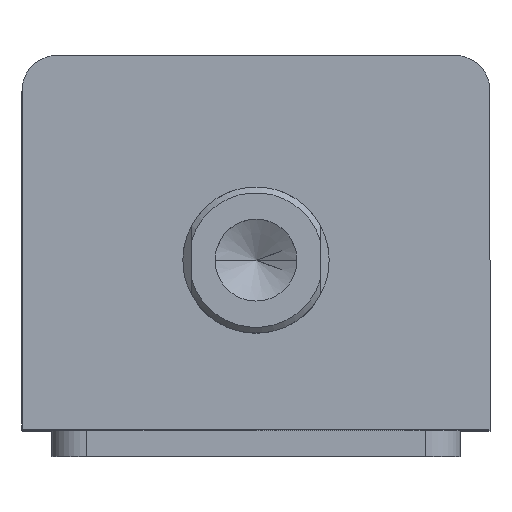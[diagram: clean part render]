
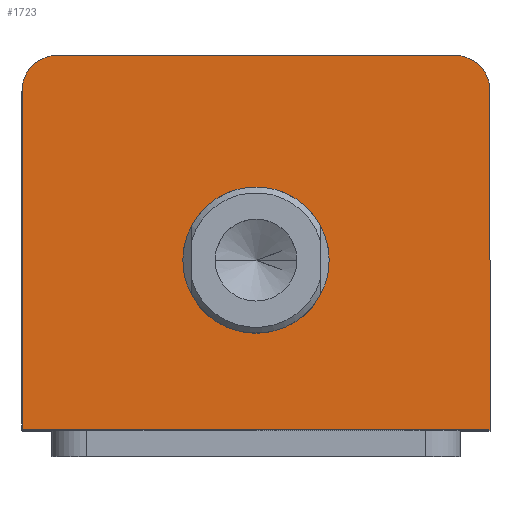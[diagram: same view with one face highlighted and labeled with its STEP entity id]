
A CAD part, top view. The second image highlights one B-rep face of the part: STEP entity #1723.
In plain terms, the highlighted planar face has unit normal (0, 0, 1).
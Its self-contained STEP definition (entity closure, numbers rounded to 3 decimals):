
#81 = CARTESIAN_POINT ( 'NONE',  ( 12.5, -3., 115. ) ) ;
#83 = CARTESIAN_POINT ( 'NONE',  ( -12.5, -3., 115. ) ) ;
#174 = CARTESIAN_POINT ( 'NONE',  ( -34., 32., 115. ) ) ;
#374 = DIRECTION ( 'NONE',  ( -1., 0., 0. ) ) ;
#379 = CARTESIAN_POINT ( 'NONE',  ( -40., 32., 115. ) ) ;
#418 = DIRECTION ( 'NONE',  ( 0., -1., 0. ) ) ;
#420 = CARTESIAN_POINT ( 'NONE',  ( -40., 32., 115. ) ) ;
#430 = DIRECTION ( 'NONE',  ( 1., 0., 0. ) ) ;
#431 = DIRECTION ( 'NONE',  ( 0., 0., 1. ) ) ;
#432 = CARTESIAN_POINT ( 'NONE',  ( -34., 26., 115. ) ) ;
#470 = DIRECTION ( 'NONE',  ( 1., 0., 0. ) ) ;
#471 = DIRECTION ( 'NONE',  ( 0., 0., 1. ) ) ;
#472 = CARTESIAN_POINT ( 'NONE',  ( 34., 26., 115. ) ) ;
#498 = DIRECTION ( 'NONE',  ( 1., 0., 0. ) ) ;
#506 = DIRECTION ( 'NONE',  ( 0., 1., 0. ) ) ;
#507 = CARTESIAN_POINT ( 'NONE',  ( 40., 32., 115. ) ) ;
#517 = CARTESIAN_POINT ( 'NONE',  ( -40., -32., 115. ) ) ;
#561 = ORIENTED_EDGE ( 'NONE', *, *, #1326, .T. ) ;
#562 = ORIENTED_EDGE ( 'NONE', *, *, #1318, .T. ) ;
#563 = ORIENTED_EDGE ( 'NONE', *, *, #1281, .T. ) ;
#851 = CIRCLE ( 'NONE', #1608, 12.5 ) ;
#889 = LINE ( 'NONE', #517, #896 ) ;
#896 = VECTOR ( 'NONE', #498, 1000. ) ;
#921 = LINE ( 'NONE', #379, #924 ) ;
#924 = VECTOR ( 'NONE', #374, 1000. ) ;
#961 = LINE ( 'NONE', #507, #964 ) ;
#964 = VECTOR ( 'NONE', #506, 1000. ) ;
#968 = CIRCLE ( 'NONE', #2745, 6. ) ;
#981 = CIRCLE ( 'NONE', #2738, 6. ) ;
#987 = LINE ( 'NONE', #420, #990 ) ;
#990 = VECTOR ( 'NONE', #418, 1000. ) ;
#1067 = CIRCLE ( 'NONE', #3326, 12.5 ) ;
#1253 = EDGE_CURVE ( 'NONE', #2655, #2658, #851, .T. ) ;
#1281 = EDGE_CURVE ( 'NONE', #2615, #2612, #889, .T. ) ;
#1297 = EDGE_CURVE ( 'NONE', #2626, #2629, #921, .T. ) ;
#1318 = EDGE_CURVE ( 'NONE', #2612, #2603, #961, .T. ) ;
#1326 = EDGE_CURVE ( 'NONE', #2603, #2626, #968, .T. ) ;
#1335 = EDGE_CURVE ( 'NONE', #2629, #2577, #981, .T. ) ;
#1339 = EDGE_CURVE ( 'NONE', #2577, #2615, #987, .T. ) ;
#1389 = EDGE_CURVE ( 'NONE', #2658, #2655, #1067, .T. ) ;
#1608 = AXIS2_PLACEMENT_3D ( 'NONE', #3437, #3436, #3433 ) ;
#1723 = ADVANCED_FACE ( 'NONE', ( #1843, #1846 ), #3061, .T. ) ;
#1843 = FACE_BOUND ( 'NONE', #2338, .T. ) ;
#1846 = FACE_OUTER_BOUND ( 'NONE', #2347, .T. ) ;
#2338 = EDGE_LOOP ( 'NONE', ( #2414, #2413 ) ) ;
#2347 = EDGE_LOOP ( 'NONE', ( #2412, #2411, #2410, #563, #562, #561 ) ) ;
#2410 = ORIENTED_EDGE ( 'NONE', *, *, #1339, .T. ) ;
#2411 = ORIENTED_EDGE ( 'NONE', *, *, #1335, .T. ) ;
#2412 = ORIENTED_EDGE ( 'NONE', *, *, #1297, .T. ) ;
#2413 = ORIENTED_EDGE ( 'NONE', *, *, #1253, .F. ) ;
#2414 = ORIENTED_EDGE ( 'NONE', *, *, #1389, .F. ) ;
#2577 = VERTEX_POINT ( 'NONE', #2819 ) ;
#2603 = VERTEX_POINT ( 'NONE', #2785 ) ;
#2612 = VERTEX_POINT ( 'NONE', #2774 ) ;
#2615 = VERTEX_POINT ( 'NONE', #2770 ) ;
#2626 = VERTEX_POINT ( 'NONE', #2756 ) ;
#2629 = VERTEX_POINT ( 'NONE', #174 ) ;
#2655 = VERTEX_POINT ( 'NONE', #83 ) ;
#2658 = VERTEX_POINT ( 'NONE', #81 ) ;
#2738 = AXIS2_PLACEMENT_3D ( 'NONE', #432, #431, #430 ) ;
#2745 = AXIS2_PLACEMENT_3D ( 'NONE', #472, #471, #470 ) ;
#2756 = CARTESIAN_POINT ( 'NONE',  ( 34., 32., 115. ) ) ;
#2770 = CARTESIAN_POINT ( 'NONE',  ( -40., -32., 115. ) ) ;
#2774 = CARTESIAN_POINT ( 'NONE',  ( 40., -32., 115. ) ) ;
#2785 = CARTESIAN_POINT ( 'NONE',  ( 40., 26., 115. ) ) ;
#2819 = CARTESIAN_POINT ( 'NONE',  ( -40., 26., 115. ) ) ;
#3048 = CARTESIAN_POINT ( 'NONE',  ( 0., -3., 115. ) ) ;
#3053 = DIRECTION ( 'NONE',  ( 1., 0., 0. ) ) ;
#3054 = DIRECTION ( 'NONE',  ( 0., 0., 1. ) ) ;
#3060 = CARTESIAN_POINT ( 'NONE',  ( 0., 0., 115. ) ) ;
#3061 = PLANE ( 'NONE',  #3575 ) ;
#3295 = DIRECTION ( 'NONE',  ( 1., 0., 0. ) ) ;
#3296 = DIRECTION ( 'NONE',  ( 0., 0., 1. ) ) ;
#3326 = AXIS2_PLACEMENT_3D ( 'NONE', #3048, #3296, #3295 ) ;
#3433 = DIRECTION ( 'NONE',  ( 1., 0., 0. ) ) ;
#3436 = DIRECTION ( 'NONE',  ( 0., 0., 1. ) ) ;
#3437 = CARTESIAN_POINT ( 'NONE',  ( 0., -3., 115. ) ) ;
#3575 = AXIS2_PLACEMENT_3D ( 'NONE', #3060, #3054, #3053 ) ;
